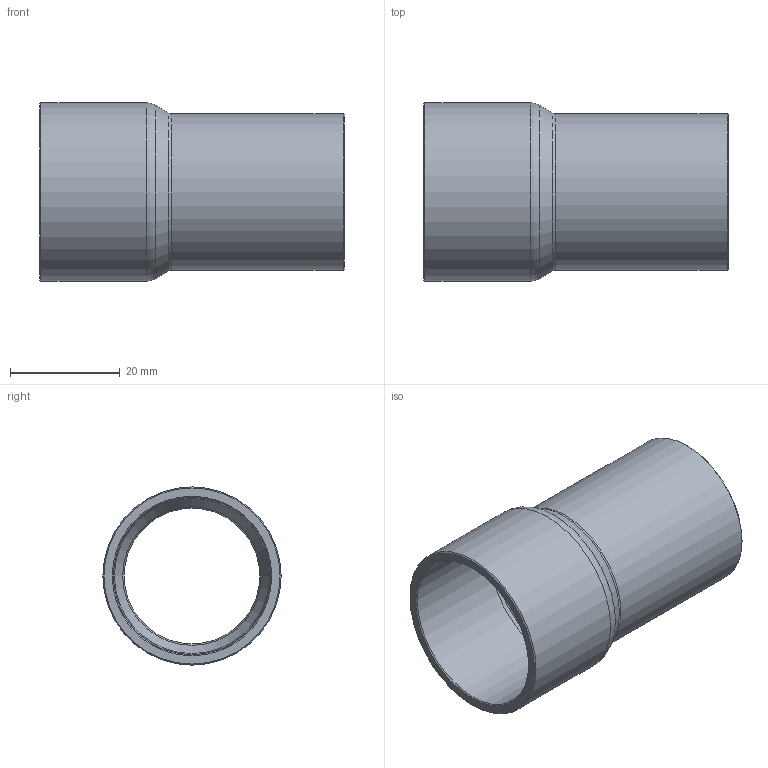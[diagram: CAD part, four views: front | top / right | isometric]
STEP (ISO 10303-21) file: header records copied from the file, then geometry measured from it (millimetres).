
FILE_DESCRIPTION((''),'2;1');
FILE_NAME('G:\SANHA-Ternat\Technik\Management\Bouwmaten + markeringen\z-maattekeningen 3D\29000s\29000s_gem\29245118_gem.stp','2020-03-27T09:52:11',('vdvijverd'),(''),'Autodesk Inventor 2009','Autodesk Inventor 2009','');
FILE_SCHEMA(('AUTOMOTIVE_DESIGN { 1 0 10303 214 1 1 1 1 }'));
Length unit declared in the file: millimetre
Products named in the file (1): 29245118_gem
Bounding box: 55.55 x 32.52 x 32.52 mm (x, y, z)
Volume: 9486.7 mm3; surface area: 10242.9 mm2
Topology: 1 solids, 1 shells, 15 faces, 28 edges, 15 vertices
Faces by surface type: cone 5, cylinder 4, plane 2, torus 2, bspline 2
Full cylindrical faces by diameter (mm): 24.77 x1, 28.57 x1, 28.725 x1, 32.525 x1
Entity records: 414 total; most frequent: CARTESIAN_POINT 134, DIRECTION 58, ORIENTED_EDGE 30, EDGE_LOOP 30, AXIS2_PLACEMENT_3D 29, VERTEX_POINT 15, CIRCLE 15, EDGE_CURVE 15
